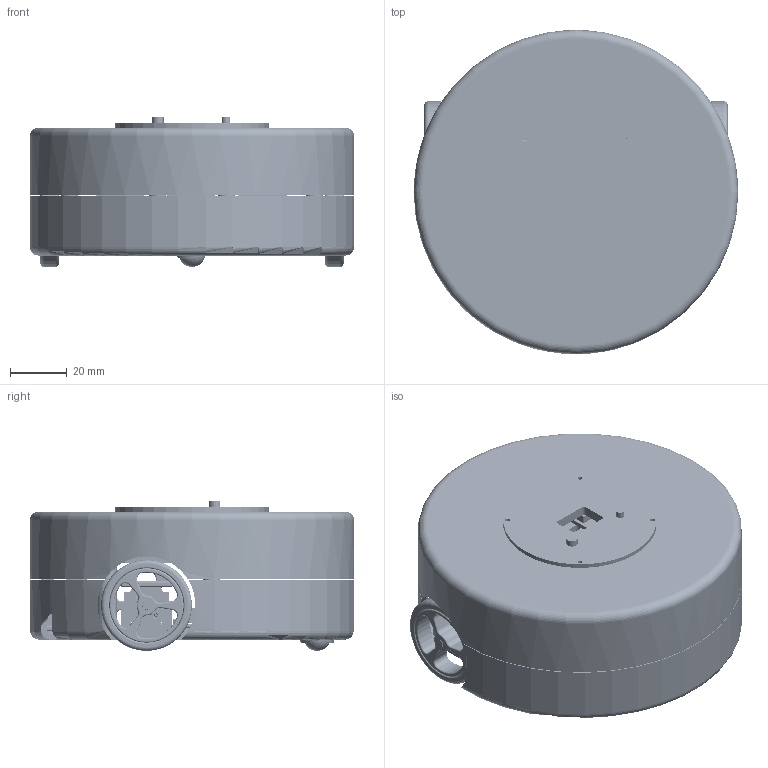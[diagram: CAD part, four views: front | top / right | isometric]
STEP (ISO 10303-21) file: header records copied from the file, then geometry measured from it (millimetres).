
FILE_DESCRIPTION(('Open CASCADE Model'),'2;1');
FILE_NAME('Open CASCADE Shape Model','2026-09-29T14:44:59',('Author'),( 'Open CASCADE'),'Open CASCADE STEP processor 8.0','build123d', 'Unknown');
FILE_SCHEMA(('AUTOMOTIVE_DESIGN { 1 0 10303 214 1 1 1 1 }'));
Length unit declared in the file: millimetre
Products named in the file (21): COMPOUND; 10_motor_R; 12_wheel_R; 14_ball_caster; 11_motor_clamp_L; 11_motor_clamp_R; 03_battery_tray; 20_battery_1200mAh; 28_cliff_R; 08_front_range_mount; 08_cliff_L_mount; 08_cliff_R_mount; 22_DRV8833; 24_boost_5V; 26_MAX98357_amp; 25_USB_C_charger; 21_ESP32_S3_Plus; 23_IMU_LSM6DS3; 01_bottom_shell; 02_top_shell; 04_electronics_deck
Assembly tree (24 placements, depth 2):
  COMPOUND
    10_motor_R  x2
    12_wheel_R  x2
    14_ball_caster
    11_motor_clamp_L
    11_motor_clamp_R
    03_battery_tray
    20_battery_1200mAh
    28_cliff_R  x3
    08_front_range_mount
    08_cliff_L_mount
    08_cliff_R_mount
    22_DRV8833
    24_boost_5V
    26_MAX98357_amp
    25_USB_C_charger
    21_ESP32_S3_Plus
    23_IMU_LSM6DS3
    01_bottom_shell
    02_top_shell
    04_electronics_deck
Bounding box: 114 x 114 x 52.7 mm (x, y, z)
Volume: 131911.2 mm3; surface area: 131474.1 mm2
Topology: 58 solids, 66 shells, 12466 faces, 34773 edges, 22868 vertices
Faces by surface type: plane 6431, cylinder 3661, bspline 2091, sphere 132, torus 129, cone 22
Full cylindrical faces by diameter (mm): 0.5 x19, 0.65 x2, 0.9 x3, 1 x16, 1.7 x16, 1.8 x4, 2 x4, 2.2 x4, 2.3 x10, 2.4 x6, 2.5 x6, 2.6 x4, 3 x1, 3.4 x4, 4 x1, 4.4 x6, 5.2 x6, 5.4 x4, 6 x8, 6.4 x4, 7.2 x8, 32 x2, 54 x1, 110 x1, 114 x1
Entity records: 629297 total; most frequent: CARTESIAN_POINT 242153, DIRECTION 57712, ORIENTED_EDGE 42582, PCURVE 42582, DEFINITIONAL_REPRESENTATION 42582, LINE 37676, VECTOR 37676, EDGE_CURVE 21291
